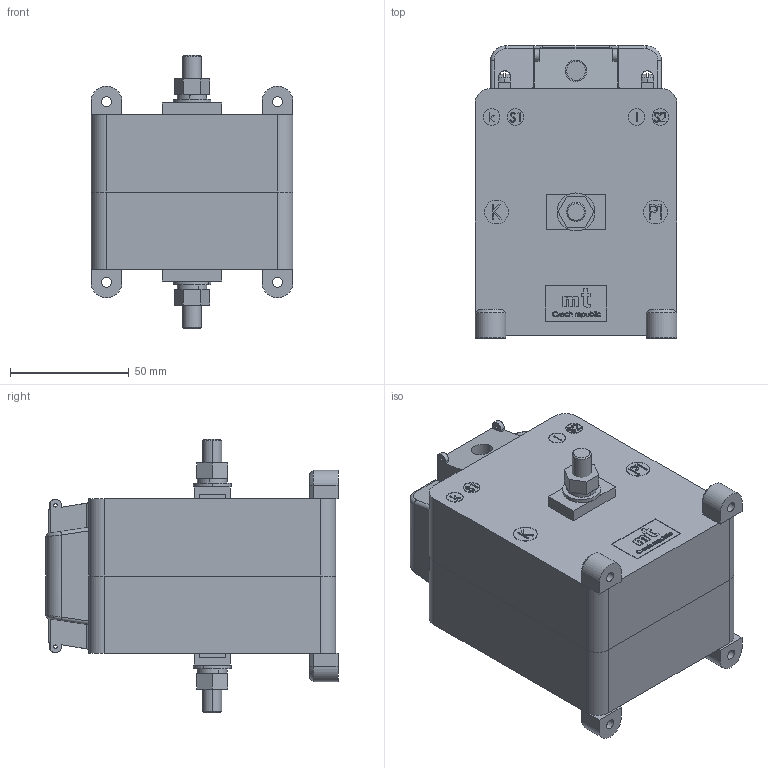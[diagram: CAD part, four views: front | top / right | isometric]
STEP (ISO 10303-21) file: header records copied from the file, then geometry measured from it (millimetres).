
FILE_DESCRIPTION (( 'STEP AP214' ), '1' );
FILE_NAME ('CLA 1.2 S.STEP', '2024-09-30T17:51:29', ( '' ), ( '' ), 'SwSTEP 2.0', 'SolidWorks 2024', '' );
FILE_SCHEMA (( 'AUTOMOTIVE_DESIGN' ));
Length unit declared in the file: millimetre
Products named in the file (14): Screw M5x8; Screw M8; Tape label CLA 1.2 S; Nut M8; CLA 1.2 S; Secondary terminal; Front plastic case CLA 1.2; Primary terminal CLA 1.x S; Spring washer D8; Plastic mounting foot; Back plastic case CLA 1.2; Flat washer D8; Secondary terminal cover CLA; Rivet 40
Assembly tree (25 placements, depth 2):
  CLA 1.2 S
    Front plastic case CLA 1.2
    Back plastic case CLA 1.2
    Tape label CLA 1.2 S
    Secondary terminal cover CLA
    Plastic mounting foot  x4
    Secondary terminal  x2
    Screw M5x8  x2
    Rivet 40  x3
    Primary terminal CLA 1.x S  x2
    Flat washer D8  x2
    Spring washer D8  x2
    Nut M8  x2
    Screw M8  x2
Bounding box: 85 x 123 x 115 mm (x, y, z)
Volume: 610960.6 mm3; surface area: 100044.3 mm2
Topology: 25 solids, 28 shells, 1354 faces, 3515 edges, 2318 vertices
Faces by surface type: plane 739, bspline 324, cylinder 227, cone 44, torus 12, sphere 8
Entity records: 50910 total; most frequent: CARTESIAN_POINT 23989, ORIENTED_EDGE 5880, DIRECTION 4184, EDGE_CURVE 2940, VERTEX_POINT 1948, LINE 1930, VECTOR 1930, EDGE_LOOP 1244
